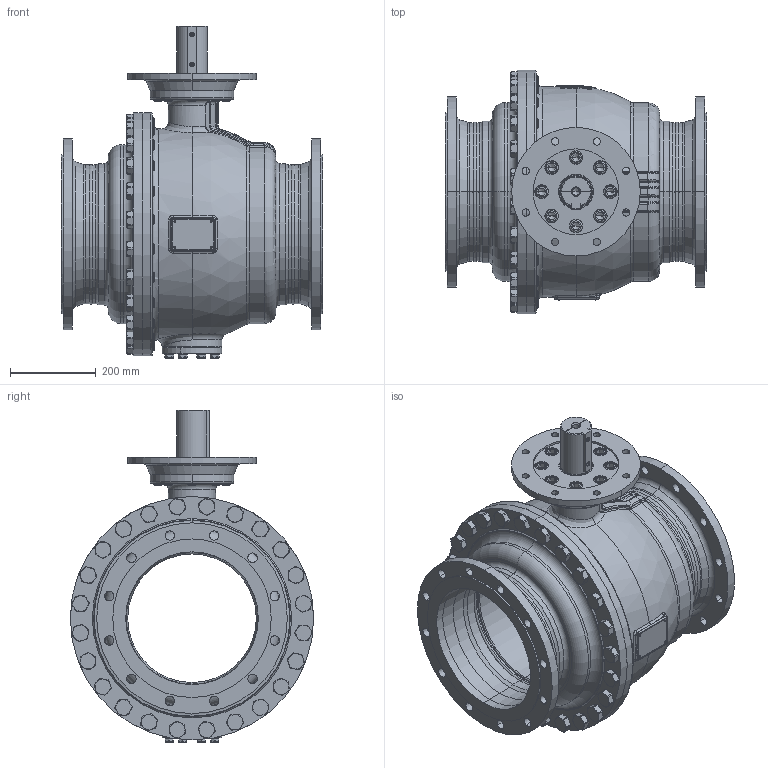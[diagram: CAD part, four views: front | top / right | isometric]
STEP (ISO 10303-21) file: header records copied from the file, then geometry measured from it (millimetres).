
FILE_DESCRIPTION((''),'2;1');
FILE_NAME('KHI-F_300-PN010-F25-P_SW0001','2026-02-05T15:07:09',('fischerkl'),('KLINGER'),'CREO PARAMETRIC BY PTC INC, 2023014','CREO PARAMETRIC BY PTC INC, 2023014','');
FILE_SCHEMA(('CONFIG_CONTROL_DESIGN'));
Products named in the file (1): KHI-F_300-PN010-F25-P_SW0001
Bounding box: 610 x 568 x 774.8 mm (x, y, z)
Volume: 29237609.8 mm3; surface area: 4451924.7 mm2
Topology: 1 solids, 4 shells, 3407 faces, 8630 edges, 5396 vertices
Faces by surface type: plane 1749, cylinder 769, cone 448, torus 301, bspline 111, sphere 29
Entity records: 145054 total; most frequent: CARTESIAN_POINT 64126, ORIENTED_EDGE 17208, DIRECTION 16577, EDGE_CURVE 8604, AXIS2_PLACEMENT_3D 6321, VERTEX_POINT 5396, VECTOR 3935, LINE 3935
